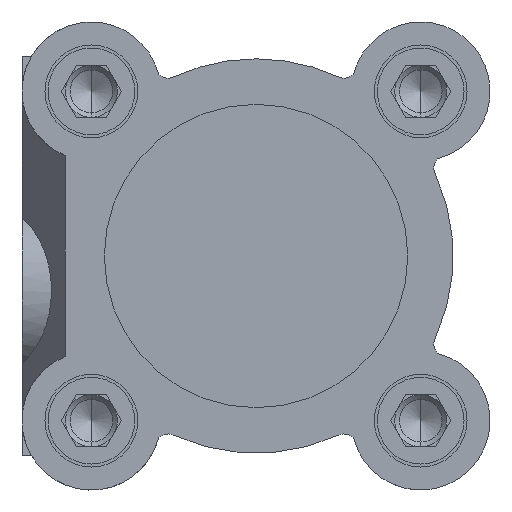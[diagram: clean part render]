
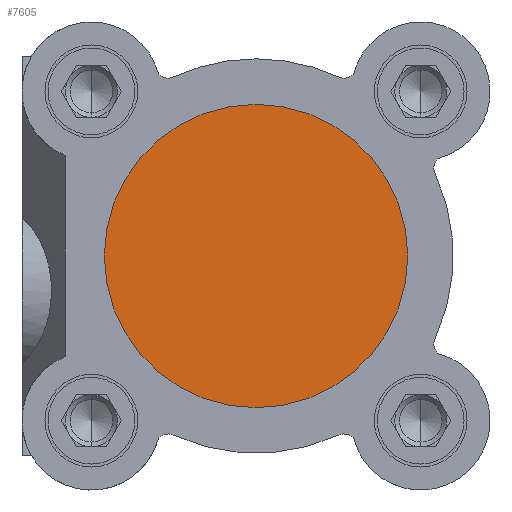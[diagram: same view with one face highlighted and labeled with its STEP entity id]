
A CAD part, left-side view. The second image highlights one B-rep face of the part: STEP entity #7605.
In plain terms, the highlighted planar face has unit normal (-1, 0, 0).
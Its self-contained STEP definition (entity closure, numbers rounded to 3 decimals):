
#642 = VERTEX_POINT ( 'NONE', #5199 ) ;
#873 = DIRECTION ( 'NONE',  ( 0., 0., 1. ) ) ;
#983 = CARTESIAN_POINT ( 'NONE',  ( -159., 0., 0. ) ) ;
#1093 = AXIS2_PLACEMENT_3D ( 'NONE', #9813, #2515, #2635 ) ;
#1343 = DIRECTION ( 'NONE',  ( 0., 0., 1. ) ) ;
#1361 = EDGE_LOOP ( 'NONE', ( #5441, #8972 ) ) ;
#1702 = CARTESIAN_POINT ( 'NONE',  ( -159., 0., -17.5 ) ) ;
#1792 = CIRCLE ( 'NONE', #2551, 17.5 ) ;
#1796 = PLANE ( 'NONE',  #1093 ) ;
#1846 = AXIS2_PLACEMENT_3D ( 'NONE', #6026, #7700, #1343 ) ;
#2515 = DIRECTION ( 'NONE',  ( 1., 0., 0. ) ) ;
#2551 = AXIS2_PLACEMENT_3D ( 'NONE', #983, #3332, #873 ) ;
#2635 = DIRECTION ( 'NONE',  ( 0., 0., -1. ) ) ;
#3332 = DIRECTION ( 'NONE',  ( -1., 0., 0. ) ) ;
#3753 = VERTEX_POINT ( 'NONE', #1702 ) ;
#4537 = FACE_OUTER_BOUND ( 'NONE', #1361, .T. ) ;
#5199 = CARTESIAN_POINT ( 'NONE',  ( -159., 0., 17.5 ) ) ;
#5441 = ORIENTED_EDGE ( 'NONE', *, *, #7573, .T. ) ;
#6026 = CARTESIAN_POINT ( 'NONE',  ( -159., 0., 0. ) ) ;
#6793 = CIRCLE ( 'NONE', #1846, 17.5 ) ;
#7266 = EDGE_CURVE ( 'NONE', #3753, #642, #1792, .T. ) ;
#7573 = EDGE_CURVE ( 'NONE', #642, #3753, #6793, .T. ) ;
#7605 = ADVANCED_FACE ( 'NONE', ( #4537 ), #1796, .F. ) ;
#7700 = DIRECTION ( 'NONE',  ( -1., 0., 0. ) ) ;
#8972 = ORIENTED_EDGE ( 'NONE', *, *, #7266, .T. ) ;
#9813 = CARTESIAN_POINT ( 'NONE',  ( -159., 17.5, 0. ) ) ;
